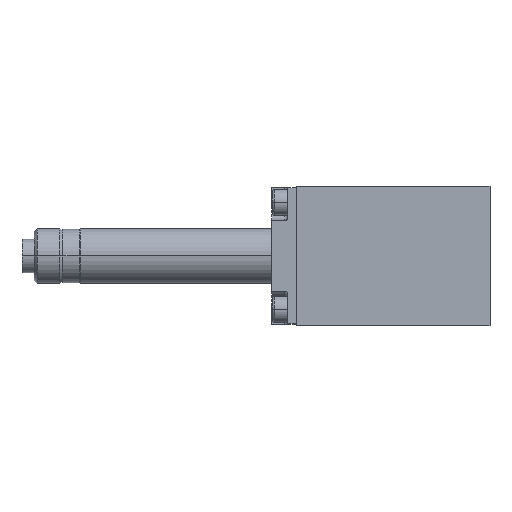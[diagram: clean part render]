
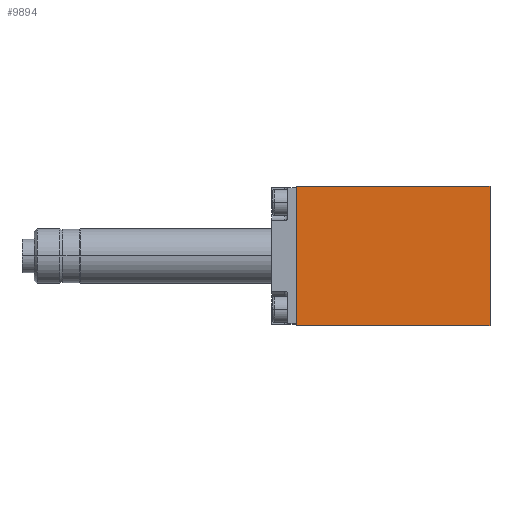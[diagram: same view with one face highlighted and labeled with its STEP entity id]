
A CAD part, top view. The second image highlights one B-rep face of the part: STEP entity #9894.
In plain terms, the highlighted planar face has unit normal (0, 0, 1).
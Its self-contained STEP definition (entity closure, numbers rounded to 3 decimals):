
#398 = LINE ( 'NONE', #3122, #25419 ) ;
#1027 = VECTOR ( 'NONE', #9789, 1000. ) ;
#1665 = VECTOR ( 'NONE', #5659, 1000. ) ;
#2403 = FACE_OUTER_BOUND ( 'NONE', #24924, .T. ) ;
#2491 = CARTESIAN_POINT ( 'NONE',  ( 64., -23., 23. ) ) ;
#3122 = CARTESIAN_POINT ( 'NONE',  ( 64., -23., 23. ) ) ;
#3632 = CARTESIAN_POINT ( 'NONE',  ( 0., -23., 23. ) ) ;
#3755 = AXIS2_PLACEMENT_3D ( 'NONE', #2491, #16397, #4572 ) ;
#4572 = DIRECTION ( 'NONE',  ( -1., 0., 0. ) ) ;
#5659 = DIRECTION ( 'NONE',  ( 0., -1., 0. ) ) ;
#7485 = ORIENTED_EDGE ( 'NONE', *, *, #17680, .F. ) ;
#7557 = DIRECTION ( 'NONE',  ( -1., 0., 0. ) ) ;
#7773 = ORIENTED_EDGE ( 'NONE', *, *, #17604, .F. ) ;
#7824 = CARTESIAN_POINT ( 'NONE',  ( 64., -23., 23. ) ) ;
#8129 = CARTESIAN_POINT ( 'NONE',  ( 0., 23., 23. ) ) ;
#8894 = VERTEX_POINT ( 'NONE', #10118 ) ;
#8947 = ORIENTED_EDGE ( 'NONE', *, *, #17641, .T. ) ;
#9115 = VECTOR ( 'NONE', #7557, 1000. ) ;
#9705 = LINE ( 'NONE', #17307, #9115 ) ;
#9789 = DIRECTION ( 'NONE',  ( -1., 0., 0. ) ) ;
#9894 = ADVANCED_FACE ( 'NONE', ( #2403 ), #23990, .F. ) ;
#10118 = CARTESIAN_POINT ( 'NONE',  ( 0., -23., 23. ) ) ;
#11838 = LINE ( 'NONE', #7824, #1027 ) ;
#15628 = VERTEX_POINT ( 'NONE', #8129 ) ;
#16022 = CARTESIAN_POINT ( 'NONE',  ( 64., -23., 23. ) ) ;
#16348 = CARTESIAN_POINT ( 'NONE',  ( 64., 23., 23. ) ) ;
#16397 = DIRECTION ( 'NONE',  ( 0., 0., -1. ) ) ;
#16966 = LINE ( 'NONE', #3632, #1665 ) ;
#17307 = CARTESIAN_POINT ( 'NONE',  ( 64., 23., 23. ) ) ;
#17604 = EDGE_CURVE ( 'NONE', #18446, #18339, #398, .T. ) ;
#17641 = EDGE_CURVE ( 'NONE', #18446, #15628, #9705, .T. ) ;
#17679 = EDGE_CURVE ( 'NONE', #15628, #8894, #16966, .T. ) ;
#17680 = EDGE_CURVE ( 'NONE', #18339, #8894, #11838, .T. ) ;
#18339 = VERTEX_POINT ( 'NONE', #16022 ) ;
#18446 = VERTEX_POINT ( 'NONE', #16348 ) ;
#19862 = ORIENTED_EDGE ( 'NONE', *, *, #17679, .T. ) ;
#23990 = PLANE ( 'NONE',  #3755 ) ;
#24724 = DIRECTION ( 'NONE',  ( 0., -1., 0. ) ) ;
#24924 = EDGE_LOOP ( 'NONE', ( #19862, #7485, #7773, #8947 ) ) ;
#25419 = VECTOR ( 'NONE', #24724, 1000. ) ;
